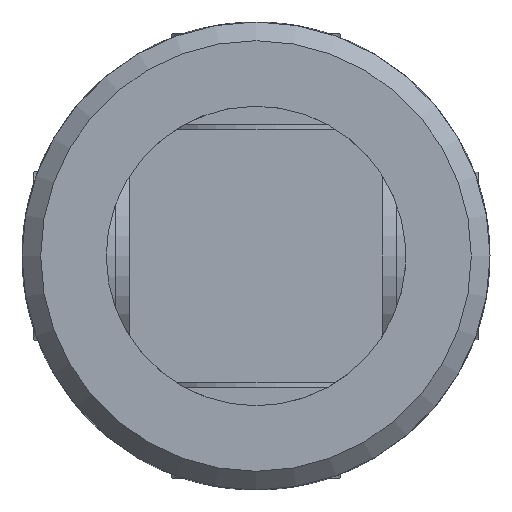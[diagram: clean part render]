
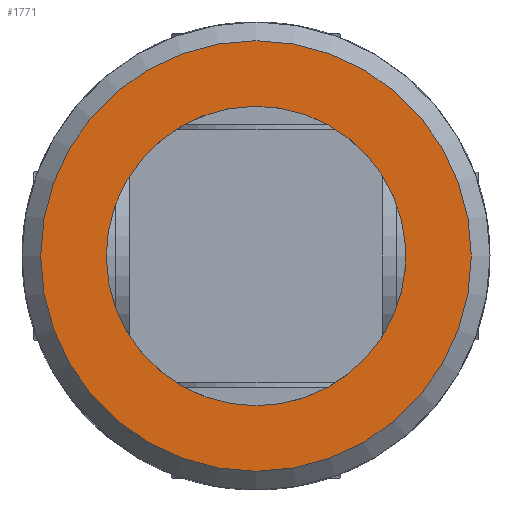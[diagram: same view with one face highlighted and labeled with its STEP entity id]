
A CAD part, front view. The second image highlights one B-rep face of the part: STEP entity #1771.
In plain terms, the highlighted planar face has unit normal (0, -1, 0).
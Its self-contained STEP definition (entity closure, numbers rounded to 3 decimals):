
#216=PLANE('',#1959);
#387=FACE_BOUND('',#623,.T.);
#477=FACE_OUTER_BOUND('',#622,.T.);
#622=EDGE_LOOP('',(#1557));
#623=EDGE_LOOP('',(#1558));
#715=CIRCLE('',#1944,8.);
#723=CIRCLE('',#1957,11.5);
#864=VERTEX_POINT('',#3382);
#878=VERTEX_POINT('',#3472);
#1088=EDGE_CURVE('',#864,#864,#715,.T.);
#1107=EDGE_CURVE('',#878,#878,#723,.T.);
#1557=ORIENTED_EDGE('',*,*,#1107,.F.);
#1558=ORIENTED_EDGE('',*,*,#1088,.T.);
#1771=ADVANCED_FACE('',(#477,#387),#216,.F.);
#1944=AXIS2_PLACEMENT_3D('',#3383,#2335,#2336);
#1957=AXIS2_PLACEMENT_3D('',#3473,#2366,#2367);
#1959=AXIS2_PLACEMENT_3D('',#3689,#2374,#2375);
#2335=DIRECTION('center_axis',(0.,1.,0.));
#2336=DIRECTION('ref_axis',(-1.,0.,0.));
#2366=DIRECTION('center_axis',(0.,1.,0.));
#2367=DIRECTION('ref_axis',(1.,0.,0.));
#2374=DIRECTION('center_axis',(0.,1.,0.));
#2375=DIRECTION('ref_axis',(0.,0.,1.));
#3382=CARTESIAN_POINT('',(8.,-43.5,0.));
#3383=CARTESIAN_POINT('Origin',(0.,-43.5,0.));
#3472=CARTESIAN_POINT('',(-11.5,-43.5,0.));
#3473=CARTESIAN_POINT('Origin',(0.,-43.5,0.));
#3689=CARTESIAN_POINT('Origin',(0.,-43.5,0.));
